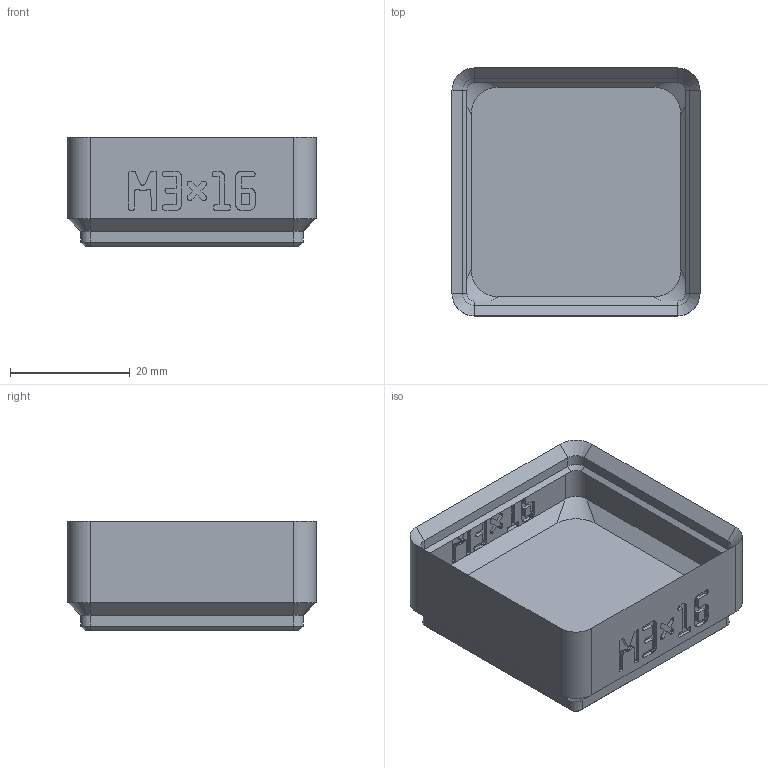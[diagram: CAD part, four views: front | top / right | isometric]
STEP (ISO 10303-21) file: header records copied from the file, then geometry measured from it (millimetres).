
FILE_DESCRIPTION(('Open CASCADE Model'),'2;1');
FILE_NAME('bin_m3x16','2026-11-16T17:22:01',('Author'),('Open CASCADE'), 'Open CASCADE STEP processor 8.0','build123d','Unknown');
FILE_SCHEMA(('AUTOMOTIVE_DESIGN { 1 0 10303 214 1 1 1 1 }'));
Products named in the file (1): bin_m3x16
Bounding box: 41.5 x 41.5 x 18.4 mm (x, y, z)
Volume: 10967.8 mm3; surface area: 8357.4 mm2
Topology: 1 solids, 1 shells, 1133 faces, 3274 edges, 2164 vertices
Faces by surface type: plane 1085, cylinder 24, cone 16, bspline 8
Full cylindrical faces by diameter (mm): 3.2 x4, 6.5 x4
Entity records: 76836 total; most frequent: CARTESIAN_POINT 15448, DIRECTION 9906, LINE 7506, VECTOR 7506, ORIENTED_EDGE 6548, PCURVE 6548, DEFINITIONAL_REPRESENTATION 6548, EDGE_CURVE 3274
